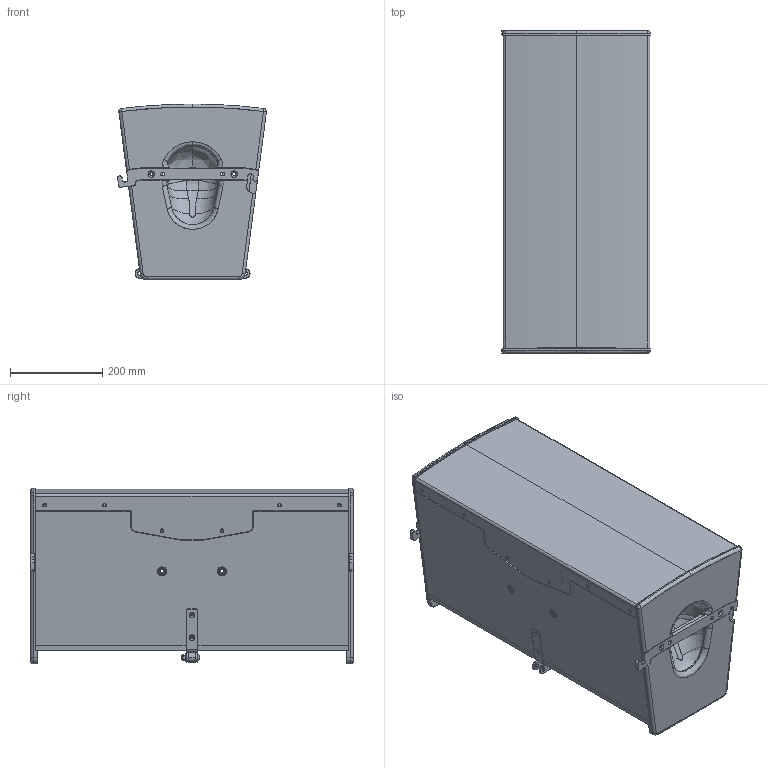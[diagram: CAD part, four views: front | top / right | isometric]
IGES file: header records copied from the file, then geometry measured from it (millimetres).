
Start section: SolidWorks IGES file using analytic representation for surfaces
Global section: file name: D:\Entwicklungen\Projekte aktuell\C-Serie\Solid\WEB\C15-3D.IGS; native system: SolidWorks 2009; preprocessor: SolidWorks 2009; author: Nico; date: 240918.125356; units: millimetre
Bounding box: 323.18 x 700 x 382 mm (x, y, z)
Surface area: 1763852.1 mm2 (no closed solid volume)
Topology: 0 solids, 0 shells, 764 faces, 12350 edges, 12340 vertices
Faces by surface type: revolution 447, bspline 317
